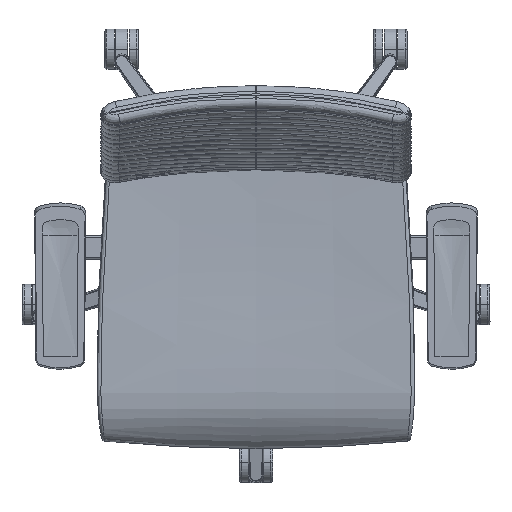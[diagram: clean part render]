
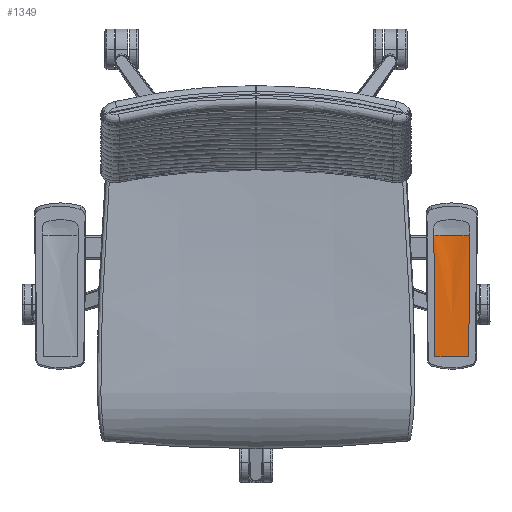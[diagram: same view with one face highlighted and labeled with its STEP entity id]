
A CAD part, top view. The second image highlights one B-rep face of the part: STEP entity #1349.
In plain terms, the highlighted free-form (B-spline) face has degree [3, 2] with [4, 3] control points.
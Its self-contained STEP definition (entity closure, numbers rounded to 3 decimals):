
#351=(
BOUNDED_CURVE()
B_SPLINE_CURVE(2,(#51454,#51455,#51456),.UNSPECIFIED.,.F.,.F.)
B_SPLINE_CURVE_WITH_KNOTS((3,3),(0.,26.864),.UNSPECIFIED.)
CURVE()
GEOMETRIC_REPRESENTATION_ITEM()
RATIONAL_B_SPLINE_CURVE((1.,0.994,1.))
REPRESENTATION_ITEM('')
);
#352=(
BOUNDED_CURVE()
B_SPLINE_CURVE(2,(#51457,#51458,#51459),.UNSPECIFIED.,.F.,.F.)
B_SPLINE_CURVE_WITH_KNOTS((3,3),(-26.864,0.),.UNSPECIFIED.)
CURVE()
GEOMETRIC_REPRESENTATION_ITEM()
RATIONAL_B_SPLINE_CURVE((1.,0.994,1.))
REPRESENTATION_ITEM('')
);
#353=(
BOUNDED_CURVE()
B_SPLINE_CURVE(3,(#51460,#51461,#51462,#51463),.UNSPECIFIED.,.F.,.F.)
B_SPLINE_CURVE_WITH_KNOTS((4,4),(0.,180.167),.UNSPECIFIED.)
CURVE()
GEOMETRIC_REPRESENTATION_ITEM()
RATIONAL_B_SPLINE_CURVE((1.,1.,1.,1.))
REPRESENTATION_ITEM('')
);
#354=(
BOUNDED_CURVE()
B_SPLINE_CURVE(3,(#51464,#51465,#51466,#51467),.UNSPECIFIED.,.F.,.F.)
B_SPLINE_CURVE_WITH_KNOTS((4,4),(-180.167,0.),.UNSPECIFIED.)
CURVE()
GEOMETRIC_REPRESENTATION_ITEM()
RATIONAL_B_SPLINE_CURVE((1.,1.,1.,1.))
REPRESENTATION_ITEM('')
);
#646=(
BOUNDED_SURFACE()
B_SPLINE_SURFACE(3,2,((#51346,#51347,#51348),(#51349,#51350,#51351),(#51352,
#51353,#51354),(#51355,#51356,#51357)),.UNSPECIFIED.,.F.,.F.,.F.)
B_SPLINE_SURFACE_WITH_KNOTS((4,4),(3,3),(0.,180.167),(-53.728,
0.),.UNSPECIFIED.)
GEOMETRIC_REPRESENTATION_ITEM()
RATIONAL_B_SPLINE_SURFACE(((1.,0.975,1.),(1.,0.975,
1.),(1.,0.975,1.),(1.,0.975,1.)))
REPRESENTATION_ITEM('')
SURFACE()
);
#1349=ADVANCED_FACE('',(#2077),#646,.T.);
#2077=FACE_OUTER_BOUND('',#2805,.T.);
#2805=EDGE_LOOP('',(#5386,#5387,#5388,#5389,#5390));
#5386=ORIENTED_EDGE('',*,*,#7381,.T.);
#5387=ORIENTED_EDGE('',*,*,#7379,.T.);
#5388=ORIENTED_EDGE('',*,*,#7380,.T.);
#5389=ORIENTED_EDGE('',*,*,#7382,.T.);
#5390=ORIENTED_EDGE('',*,*,#7398,.T.);
#7379=EDGE_CURVE('',#9699,#9700,#351,.T.);
#7380=EDGE_CURVE('',#9700,#9698,#352,.T.);
#7381=EDGE_CURVE('',#9701,#9699,#353,.T.);
#7382=EDGE_CURVE('',#9698,#9702,#354,.T.);
#7398=EDGE_CURVE('',#9702,#9701,#8758,.T.);
#8758=B_SPLINE_CURVE_WITH_KNOTS('',1,(#51529,#51530),.UNSPECIFIED.,.F.,
 .F.,(2,2),(0.,50.276),.UNSPECIFIED.);
#9698=VERTEX_POINT('',#51426);
#9699=VERTEX_POINT('',#51427);
#9700=VERTEX_POINT('',#51428);
#9701=VERTEX_POINT('',#51429);
#9702=VERTEX_POINT('',#51430);
#51346=CARTESIAN_POINT('',(315.828,-164.805,673.407));
#51347=CARTESIAN_POINT('',(290.691,-164.805,673.407));
#51348=CARTESIAN_POINT('',(265.553,-164.805,673.407));
#51349=CARTESIAN_POINT('',(316.329,-104.752,673.259));
#51350=CARTESIAN_POINT('',(290.691,-104.752,673.31));
#51351=CARTESIAN_POINT('',(265.052,-104.752,673.259));
#51352=CARTESIAN_POINT('',(316.829,-44.699,673.11));
#51353=CARTESIAN_POINT('',(290.691,-44.713,667.198));
#51354=CARTESIAN_POINT('',(264.552,-44.699,673.11));
#51355=CARTESIAN_POINT('',(317.33,15.355,672.962));
#51356=CARTESIAN_POINT('',(290.691,15.34,666.885));
#51357=CARTESIAN_POINT('',(264.051,15.355,672.962));
#51426=CARTESIAN_POINT('',(264.051,15.355,672.962));
#51427=CARTESIAN_POINT('',(317.33,15.355,672.962));
#51428=CARTESIAN_POINT('',(290.691,15.347,669.962));
#51429=CARTESIAN_POINT('',(315.828,-164.805,673.407));
#51430=CARTESIAN_POINT('',(265.553,-164.805,673.407));
#51454=CARTESIAN_POINT('',(317.33,15.355,672.962));
#51455=CARTESIAN_POINT('',(304.179,15.347,669.962));
#51456=CARTESIAN_POINT('',(290.691,15.347,669.962));
#51457=CARTESIAN_POINT('',(290.691,15.347,669.962));
#51458=CARTESIAN_POINT('',(277.202,15.347,669.962));
#51459=CARTESIAN_POINT('',(264.051,15.355,672.962));
#51460=CARTESIAN_POINT('',(315.828,-164.805,673.407));
#51461=CARTESIAN_POINT('',(316.329,-104.752,673.259));
#51462=CARTESIAN_POINT('',(316.829,-44.699,673.11));
#51463=CARTESIAN_POINT('',(317.33,15.355,672.962));
#51464=CARTESIAN_POINT('',(264.051,15.355,672.962));
#51465=CARTESIAN_POINT('',(264.552,-44.699,673.11));
#51466=CARTESIAN_POINT('',(265.052,-104.752,673.259));
#51467=CARTESIAN_POINT('',(265.553,-164.805,673.407));
#51529=CARTESIAN_POINT('',(265.553,-164.805,673.407));
#51530=CARTESIAN_POINT('',(315.828,-164.805,673.407));
